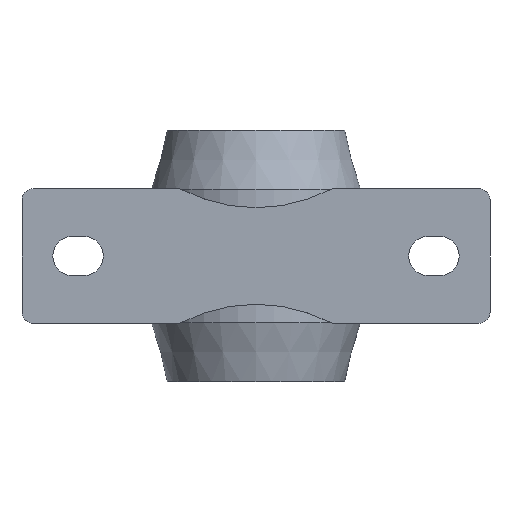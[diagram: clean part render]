
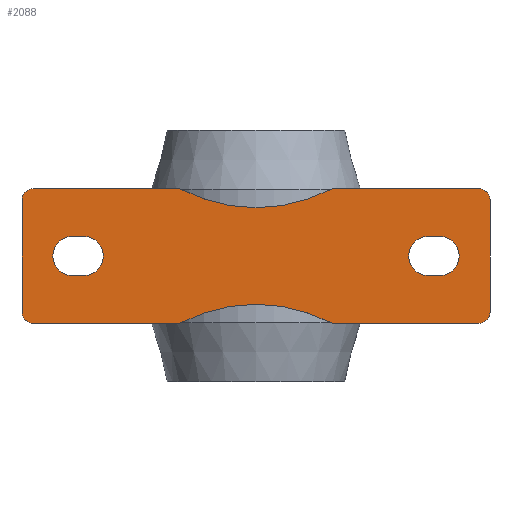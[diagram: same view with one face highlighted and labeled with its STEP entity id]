
A CAD part, front view. The second image highlights one B-rep face of the part: STEP entity #2088.
In plain terms, the highlighted planar face has unit normal (0, -1, 0).
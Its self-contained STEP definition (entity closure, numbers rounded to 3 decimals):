
#97=FACE_BOUND('',#302,.T.);
#98=FACE_BOUND('',#303,.T.);
#122=PLANE('',#2317);
#182=FACE_OUTER_BOUND('',#301,.T.);
#301=EDGE_LOOP('',(#1360,#1361,#1362,#1363,#1364,#1365,#1366,#1367,#1368,
#1369,#1370,#1371));
#302=EDGE_LOOP('',(#1372,#1373,#1374,#1375));
#303=EDGE_LOOP('',(#1376,#1377,#1378,#1379));
#479=LINE('',#3224,#608);
#480=LINE('',#3228,#609);
#481=LINE('',#3232,#610);
#482=LINE('',#3236,#611);
#483=LINE('',#3240,#612);
#484=LINE('',#3243,#613);
#485=LINE('',#3248,#614);
#486=LINE('',#3251,#615);
#487=LINE('',#3256,#616);
#488=LINE('',#3259,#617);
#608=VECTOR('',#2571,10.);
#609=VECTOR('',#2574,10.);
#610=VECTOR('',#2577,10.);
#611=VECTOR('',#2580,10.);
#612=VECTOR('',#2583,10.);
#613=VECTOR('',#2586,10.);
#614=VECTOR('',#2589,10.);
#615=VECTOR('',#2592,10.);
#616=VECTOR('',#2595,10.);
#617=VECTOR('',#2598,10.);
#738=CIRCLE('',#2318,4.);
#739=CIRCLE('',#2319,58.);
#740=CIRCLE('',#2320,4.);
#741=CIRCLE('',#2321,4.);
#742=CIRCLE('',#2322,58.);
#743=CIRCLE('',#2323,4.);
#744=CIRCLE('',#2324,7.);
#745=CIRCLE('',#2325,7.);
#746=CIRCLE('',#2326,7.);
#747=CIRCLE('',#2327,7.);
#850=VERTEX_POINT('',#3220);
#851=VERTEX_POINT('',#3221);
#852=VERTEX_POINT('',#3223);
#853=VERTEX_POINT('',#3225);
#854=VERTEX_POINT('',#3227);
#855=VERTEX_POINT('',#3229);
#856=VERTEX_POINT('',#3231);
#857=VERTEX_POINT('',#3233);
#858=VERTEX_POINT('',#3235);
#859=VERTEX_POINT('',#3237);
#860=VERTEX_POINT('',#3239);
#861=VERTEX_POINT('',#3241);
#862=VERTEX_POINT('',#3244);
#863=VERTEX_POINT('',#3245);
#864=VERTEX_POINT('',#3247);
#865=VERTEX_POINT('',#3249);
#866=VERTEX_POINT('',#3252);
#867=VERTEX_POINT('',#3253);
#868=VERTEX_POINT('',#3255);
#869=VERTEX_POINT('',#3257);
#1056=EDGE_CURVE('',#850,#851,#738,.T.);
#1057=EDGE_CURVE('',#850,#852,#479,.T.);
#1058=EDGE_CURVE('',#852,#853,#739,.T.);
#1059=EDGE_CURVE('',#853,#854,#480,.T.);
#1060=EDGE_CURVE('',#855,#854,#740,.T.);
#1061=EDGE_CURVE('',#855,#856,#481,.T.);
#1062=EDGE_CURVE('',#857,#856,#741,.T.);
#1063=EDGE_CURVE('',#858,#857,#482,.T.);
#1064=EDGE_CURVE('',#858,#859,#742,.T.);
#1065=EDGE_CURVE('',#860,#859,#483,.T.);
#1066=EDGE_CURVE('',#861,#860,#743,.T.);
#1067=EDGE_CURVE('',#861,#851,#484,.T.);
#1068=EDGE_CURVE('',#862,#863,#744,.T.);
#1069=EDGE_CURVE('',#863,#864,#485,.T.);
#1070=EDGE_CURVE('',#864,#865,#745,.T.);
#1071=EDGE_CURVE('',#865,#862,#486,.T.);
#1072=EDGE_CURVE('',#866,#867,#746,.T.);
#1073=EDGE_CURVE('',#867,#868,#487,.T.);
#1074=EDGE_CURVE('',#868,#869,#747,.T.);
#1075=EDGE_CURVE('',#869,#866,#488,.T.);
#1360=ORIENTED_EDGE('',*,*,#1056,.F.);
#1361=ORIENTED_EDGE('',*,*,#1057,.T.);
#1362=ORIENTED_EDGE('',*,*,#1058,.T.);
#1363=ORIENTED_EDGE('',*,*,#1059,.T.);
#1364=ORIENTED_EDGE('',*,*,#1060,.F.);
#1365=ORIENTED_EDGE('',*,*,#1061,.T.);
#1366=ORIENTED_EDGE('',*,*,#1062,.F.);
#1367=ORIENTED_EDGE('',*,*,#1063,.F.);
#1368=ORIENTED_EDGE('',*,*,#1064,.T.);
#1369=ORIENTED_EDGE('',*,*,#1065,.F.);
#1370=ORIENTED_EDGE('',*,*,#1066,.F.);
#1371=ORIENTED_EDGE('',*,*,#1067,.T.);
#1372=ORIENTED_EDGE('',*,*,#1068,.T.);
#1373=ORIENTED_EDGE('',*,*,#1069,.T.);
#1374=ORIENTED_EDGE('',*,*,#1070,.T.);
#1375=ORIENTED_EDGE('',*,*,#1071,.T.);
#1376=ORIENTED_EDGE('',*,*,#1072,.T.);
#1377=ORIENTED_EDGE('',*,*,#1073,.T.);
#1378=ORIENTED_EDGE('',*,*,#1074,.T.);
#1379=ORIENTED_EDGE('',*,*,#1075,.T.);
#2088=ADVANCED_FACE('',(#182,#97,#98),#122,.F.);
#2317=AXIS2_PLACEMENT_3D('',#3219,#2567,#2568);
#2318=AXIS2_PLACEMENT_3D('',#3222,#2569,#2570);
#2319=AXIS2_PLACEMENT_3D('',#3226,#2572,#2573);
#2320=AXIS2_PLACEMENT_3D('',#3230,#2575,#2576);
#2321=AXIS2_PLACEMENT_3D('',#3234,#2578,#2579);
#2322=AXIS2_PLACEMENT_3D('',#3238,#2581,#2582);
#2323=AXIS2_PLACEMENT_3D('',#3242,#2584,#2585);
#2324=AXIS2_PLACEMENT_3D('',#3246,#2587,#2588);
#2325=AXIS2_PLACEMENT_3D('',#3250,#2590,#2591);
#2326=AXIS2_PLACEMENT_3D('',#3254,#2593,#2594);
#2327=AXIS2_PLACEMENT_3D('',#3258,#2596,#2597);
#2567=DIRECTION('center_axis',(0.,1.,0.));
#2568=DIRECTION('ref_axis',(0.,0.,1.));
#2569=DIRECTION('center_axis',(0.,1.,0.));
#2570=DIRECTION('ref_axis',(-0.707,0.,-0.707));
#2571=DIRECTION('',(1.,0.,0.));
#2572=DIRECTION('center_axis',(0.,1.,0.));
#2573=DIRECTION('ref_axis',(1.,0.,0.));
#2574=DIRECTION('',(1.,0.,0.));
#2575=DIRECTION('center_axis',(0.,1.,0.));
#2576=DIRECTION('ref_axis',(0.707,0.,-0.707));
#2577=DIRECTION('',(0.,0.,1.));
#2578=DIRECTION('center_axis',(0.,1.,0.));
#2579=DIRECTION('ref_axis',(0.707,0.,0.707));
#2580=DIRECTION('',(1.,0.,0.));
#2581=DIRECTION('center_axis',(0.,1.,0.));
#2582=DIRECTION('ref_axis',(1.,0.,0.));
#2583=DIRECTION('',(1.,0.,0.));
#2584=DIRECTION('center_axis',(0.,1.,0.));
#2585=DIRECTION('ref_axis',(-0.707,0.,0.707));
#2586=DIRECTION('',(0.,0.,-1.));
#2587=DIRECTION('center_axis',(0.,1.,0.));
#2588=DIRECTION('ref_axis',(0.,0.,1.));
#2589=DIRECTION('',(1.,0.,0.));
#2590=DIRECTION('center_axis',(0.,1.,0.));
#2591=DIRECTION('ref_axis',(0.,0.,-1.));
#2592=DIRECTION('',(-1.,0.,0.));
#2593=DIRECTION('center_axis',(0.,1.,0.));
#2594=DIRECTION('ref_axis',(0.,0.,1.));
#2595=DIRECTION('',(-1.,0.,0.));
#2596=DIRECTION('center_axis',(0.,1.,0.));
#2597=DIRECTION('ref_axis',(0.,0.,-1.));
#2598=DIRECTION('',(1.,0.,0.));
#3219=CARTESIAN_POINT('Origin',(-46.4,-47.6,0.));
#3220=CARTESIAN_POINT('',(-79.5,-47.6,-24.));
#3221=CARTESIAN_POINT('',(-83.5,-47.6,-20.));
#3222=CARTESIAN_POINT('Origin',(-79.5,-47.6,-20.));
#3223=CARTESIAN_POINT('',(-27.156,-47.6,-24.));
#3224=CARTESIAN_POINT('',(-83.5,-47.6,-24.));
#3225=CARTESIAN_POINT('',(27.156,-47.6,-24.));
#3226=CARTESIAN_POINT('Origin',(0.,-47.6,-75.25));
#3227=CARTESIAN_POINT('',(79.5,-47.6,-24.));
#3228=CARTESIAN_POINT('',(-83.5,-47.6,-24.));
#3229=CARTESIAN_POINT('',(83.5,-47.6,-20.));
#3230=CARTESIAN_POINT('Origin',(79.5,-47.6,-20.));
#3231=CARTESIAN_POINT('',(83.5,-47.6,20.));
#3232=CARTESIAN_POINT('',(83.5,-47.6,0.));
#3233=CARTESIAN_POINT('',(79.5,-47.6,24.));
#3234=CARTESIAN_POINT('Origin',(79.5,-47.6,20.));
#3235=CARTESIAN_POINT('',(27.156,-47.6,24.));
#3236=CARTESIAN_POINT('',(-10.,-47.6,24.));
#3237=CARTESIAN_POINT('',(-27.156,-47.6,24.));
#3238=CARTESIAN_POINT('Origin',(0.,-47.6,75.25));
#3239=CARTESIAN_POINT('',(-79.5,-47.6,24.));
#3240=CARTESIAN_POINT('',(-10.,-47.6,24.));
#3241=CARTESIAN_POINT('',(-83.5,-47.6,20.));
#3242=CARTESIAN_POINT('Origin',(-79.5,-47.6,20.));
#3243=CARTESIAN_POINT('',(-83.5,-47.6,0.));
#3244=CARTESIAN_POINT('',(61.5,-47.6,-7.));
#3245=CARTESIAN_POINT('',(61.5,-47.6,7.));
#3246=CARTESIAN_POINT('Origin',(61.5,-47.6,0.));
#3247=CARTESIAN_POINT('',(65.5,-47.6,7.));
#3248=CARTESIAN_POINT('',(9.55,-47.6,7.));
#3249=CARTESIAN_POINT('',(65.5,-47.6,-7.));
#3250=CARTESIAN_POINT('Origin',(65.5,-47.6,0.));
#3251=CARTESIAN_POINT('',(7.55,-47.6,-7.));
#3252=CARTESIAN_POINT('',(-61.5,-47.6,7.));
#3253=CARTESIAN_POINT('',(-61.5,-47.6,-7.));
#3254=CARTESIAN_POINT('Origin',(-61.5,-47.6,0.));
#3255=CARTESIAN_POINT('',(-65.5,-47.6,-7.));
#3256=CARTESIAN_POINT('',(-55.95,-47.6,-7.));
#3257=CARTESIAN_POINT('',(-65.5,-47.6,7.));
#3258=CARTESIAN_POINT('Origin',(-65.5,-47.6,0.));
#3259=CARTESIAN_POINT('',(-53.95,-47.6,7.));
